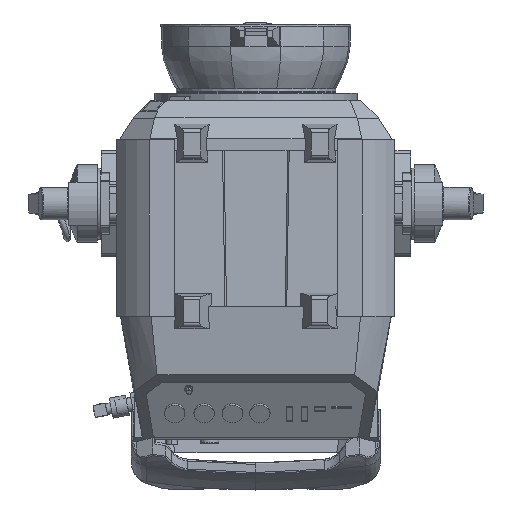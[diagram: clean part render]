
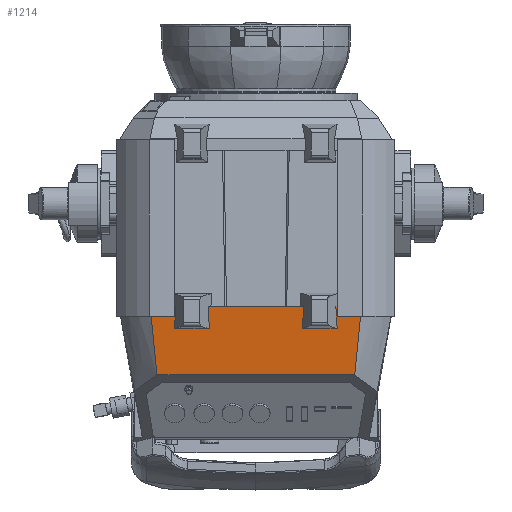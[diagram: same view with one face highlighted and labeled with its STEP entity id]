
A CAD part, front view. The second image highlights one B-rep face of the part: STEP entity #1214.
In plain terms, the highlighted planar face has unit normal (0, -0.994, -0.106).
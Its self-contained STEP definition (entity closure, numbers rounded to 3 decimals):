
#30 = EDGE_LOOP ( 'NONE', ( #70839, #61042, #8151, #36741, #24003, #10864, #64392, #46302, #18336, #2025, #67085, #72589, #4719, #9858, #51793, #20401 ) ) ;
#732 = DIRECTION ( 'NONE',  ( -0.06, -0.105, 0.993 ) ) ;
#1214 = ADVANCED_FACE ( 'NONE', ( #25054 ), #24426, .T. ) ;
#1248 = EDGE_CURVE ( 'NONE', #47120, #50830, #40397, .T. ) ;
#1889 = EDGE_CURVE ( 'NONE', #7879, #71553, #32567, .T. ) ;
#2025 = ORIENTED_EDGE ( 'NONE', *, *, #56969, .T. ) ;
#2206 = CARTESIAN_POINT ( 'NONE',  ( 0., -141.248, -155.66 ) ) ;
#3708 = VECTOR ( 'NONE', #58806, 1000. ) ;
#3718 = LINE ( 'NONE', #60987, #19016 ) ;
#4139 = VECTOR ( 'NONE', #34361, 1000. ) ;
#4719 = ORIENTED_EDGE ( 'NONE', *, *, #69235, .T. ) ;
#4763 = VECTOR ( 'NONE', #58291, 1000. ) ;
#5445 = EDGE_CURVE ( 'NONE', #60640, #62644, #21014, .T. ) ;
#6132 = VECTOR ( 'NONE', #56889, 1000. ) ;
#7019 = CARTESIAN_POINT ( 'NONE',  ( 97.483, -134.122, -222.771 ) ) ;
#7611 = LINE ( 'NONE', #51034, #4763 ) ;
#7759 = VECTOR ( 'NONE', #10198, 1000. ) ;
#7879 = VERTEX_POINT ( 'NONE', #76648 ) ;
#8120 = VECTOR ( 'NONE', #10197, 1000. ) ;
#8151 = ORIENTED_EDGE ( 'NONE', *, *, #36595, .F. ) ;
#9858 = ORIENTED_EDGE ( 'NONE', *, *, #41159, .T. ) ;
#9950 = CARTESIAN_POINT ( 'NONE',  ( 104.215, -140.239, -165.167 ) ) ;
#10197 = DIRECTION ( 'NONE',  ( 1., 0., 0. ) ) ;
#10198 = DIRECTION ( 'NONE',  ( 0.06, -0.105, 0.993 ) ) ;
#10864 = ORIENTED_EDGE ( 'NONE', *, *, #56367, .T. ) ;
#10879 = DIRECTION ( 'NONE',  ( 1., 0., 0. ) ) ;
#11738 = CARTESIAN_POINT ( 'NONE',  ( -80.501, -141.248, -155.66 ) ) ;
#11769 = LINE ( 'NONE', #39781, #4139 ) ;
#13649 = CARTESIAN_POINT ( 'NONE',  ( 104.214, -134.122, -222.771 ) ) ;
#13795 = VECTOR ( 'NONE', #75313, 1000. ) ;
#14183 = DIRECTION ( 'NONE',  ( -1., 0., 0. ) ) ;
#14230 = VERTEX_POINT ( 'NONE', #7019 ) ;
#15194 = VECTOR ( 'NONE', #14183, 1000. ) ;
#16321 = CARTESIAN_POINT ( 'NONE',  ( 78.859, -141.248, -155.66 ) ) ;
#18196 = VERTEX_POINT ( 'NONE', #30851 ) ;
#18336 = ORIENTED_EDGE ( 'NONE', *, *, #63730, .T. ) ;
#19016 = VECTOR ( 'NONE', #67100, 1000. ) ;
#19220 = CARTESIAN_POINT ( 'NONE',  ( 103.261, -140.238, -165.172 ) ) ;
#20401 = ORIENTED_EDGE ( 'NONE', *, *, #5445, .F. ) ;
#20672 = LINE ( 'NONE', #70561, #65700 ) ;
#21014 = LINE ( 'NONE', #40964, #28667 ) ;
#22249 = CARTESIAN_POINT ( 'NONE',  ( 47.141, -141.248, -155.66 ) ) ;
#22308 = DIRECTION ( 'NONE',  ( 0., -0.994, -0.106 ) ) ;
#23677 = VERTEX_POINT ( 'NONE', #11738 ) ;
#24003 = ORIENTED_EDGE ( 'NONE', *, *, #1248, .T. ) ;
#24046 = LINE ( 'NONE', #50194, #25985 ) ;
#24384 = CARTESIAN_POINT ( 'NONE',  ( -78.859, -141.248, -155.66 ) ) ;
#24426 = PLANE ( 'NONE',  #37274 ) ;
#25054 = FACE_OUTER_BOUND ( 'NONE', #30, .T. ) ;
#25985 = VECTOR ( 'NONE', #43759, 1000. ) ;
#26021 = EDGE_CURVE ( 'NONE', #62644, #14230, #3718, .T. ) ;
#27700 = CARTESIAN_POINT ( 'NONE',  ( 80.501, -141.248, -155.662 ) ) ;
#27944 = CARTESIAN_POINT ( 'NONE',  ( 0., -141.248, -155.66 ) ) ;
#28581 = EDGE_CURVE ( 'NONE', #18196, #60640, #52444, .T. ) ;
#28667 = VECTOR ( 'NONE', #10879, 1000. ) ;
#30273 = VERTEX_POINT ( 'NONE', #48403 ) ;
#30472 = LINE ( 'NONE', #71030, #3708 ) ;
#30851 = CARTESIAN_POINT ( 'NONE',  ( 80.501, -141.248, -155.66 ) ) ;
#32567 = LINE ( 'NONE', #37561, #15194 ) ;
#34361 = DIRECTION ( 'NONE',  ( 0.06, -0.105, 0.993 ) ) ;
#34892 = CARTESIAN_POINT ( 'NONE',  ( 47.35, -141.612, -152.234 ) ) ;
#35003 = VERTEX_POINT ( 'NONE', #75785 ) ;
#35439 = DIRECTION ( 'NONE',  ( -1., 0., 0. ) ) ;
#36231 = CARTESIAN_POINT ( 'NONE',  ( 104.214, -141.248, -155.66 ) ) ;
#36552 = VERTEX_POINT ( 'NONE', #54396 ) ;
#36595 = EDGE_CURVE ( 'NONE', #62230, #46489, #66671, .T. ) ;
#36637 = VERTEX_POINT ( 'NONE', #24384 ) ;
#36741 = ORIENTED_EDGE ( 'NONE', *, *, #59875, .T. ) ;
#37274 = AXIS2_PLACEMENT_3D ( 'NONE', #36231, #22308, #73184 ) ;
#37561 = CARTESIAN_POINT ( 'NONE',  ( 104.214, -138.93, -177.492 ) ) ;
#39087 = DIRECTION ( 'NONE',  ( -1., 0., 0. ) ) ;
#39781 = CARTESIAN_POINT ( 'NONE',  ( -78.189, -142.415, -144.67 ) ) ;
#40397 = LINE ( 'NONE', #34892, #7759 ) ;
#40964 = CARTESIAN_POINT ( 'NONE',  ( 104.214, -140.238, -165.172 ) ) ;
#41159 = EDGE_CURVE ( 'NONE', #35003, #14230, #60839, .T. ) ;
#41271 = CARTESIAN_POINT ( 'NONE',  ( 80.501, -140.238, -165.171 ) ) ;
#43759 = DIRECTION ( 'NONE',  ( 0.099, 0.105, -0.99 ) ) ;
#44967 = CARTESIAN_POINT ( 'NONE',  ( 0., -141.248, -155.66 ) ) ;
#46229 = VERTEX_POINT ( 'NONE', #48855 ) ;
#46302 = ORIENTED_EDGE ( 'NONE', *, *, #1889, .T. ) ;
#46489 = VERTEX_POINT ( 'NONE', #16321 ) ;
#47120 = VERTEX_POINT ( 'NONE', #76716 ) ;
#48403 = CARTESIAN_POINT ( 'NONE',  ( -103.261, -140.238, -165.172 ) ) ;
#48855 = CARTESIAN_POINT ( 'NONE',  ( -80.501, -140.238, -165.171 ) ) ;
#49299 = LINE ( 'NONE', #2206, #6132 ) ;
#50194 = CARTESIAN_POINT ( 'NONE',  ( -100.247, -137.048, -195.215 ) ) ;
#50830 = VERTEX_POINT ( 'NONE', #22249 ) ;
#51034 = CARTESIAN_POINT ( 'NONE',  ( -80.501, -141.25, -155.643 ) ) ;
#51307 = LINE ( 'NONE', #9950, #8120 ) ;
#51711 = CARTESIAN_POINT ( 'NONE',  ( -80.189, -138.93, -177.492 ) ) ;
#51793 = ORIENTED_EDGE ( 'NONE', *, *, #26021, .F. ) ;
#52156 = LINE ( 'NONE', #27944, #64567 ) ;
#52371 = DIRECTION ( 'NONE',  ( -0.06, -0.105, 0.993 ) ) ;
#52444 = LINE ( 'NONE', #27700, #55310 ) ;
#54396 = CARTESIAN_POINT ( 'NONE',  ( -47.141, -141.248, -155.66 ) ) ;
#55310 = VECTOR ( 'NONE', #69561, 1000. ) ;
#56367 = EDGE_CURVE ( 'NONE', #50830, #36552, #79150, .T. ) ;
#56382 = CARTESIAN_POINT ( 'NONE',  ( 80.158, -138.984, -176.982 ) ) ;
#56889 = DIRECTION ( 'NONE',  ( -1., 0., 0. ) ) ;
#56969 = EDGE_CURVE ( 'NONE', #36637, #23677, #49299, .T. ) ;
#58291 = DIRECTION ( 'NONE',  ( 0., -0.106, 0.994 ) ) ;
#58806 = DIRECTION ( 'NONE',  ( -1., 0., 0. ) ) ;
#59875 = EDGE_CURVE ( 'NONE', #62230, #47120, #30472, .T. ) ;
#60640 = VERTEX_POINT ( 'NONE', #41271 ) ;
#60839 = LINE ( 'NONE', #13649, #13795 ) ;
#60987 = CARTESIAN_POINT ( 'NONE',  ( 100.247, -137.048, -195.215 ) ) ;
#61042 = ORIENTED_EDGE ( 'NONE', *, *, #62081, .T. ) ;
#61386 = EDGE_CURVE ( 'NONE', #7879, #36552, #20672, .T. ) ;
#61601 = EDGE_CURVE ( 'NONE', #30273, #46229, #51307, .T. ) ;
#62081 = EDGE_CURVE ( 'NONE', #18196, #46489, #52156, .T. ) ;
#62230 = VERTEX_POINT ( 'NONE', #56382 ) ;
#62644 = VERTEX_POINT ( 'NONE', #19220 ) ;
#63730 = EDGE_CURVE ( 'NONE', #71553, #36637, #11769, .T. ) ;
#64392 = ORIENTED_EDGE ( 'NONE', *, *, #61386, .F. ) ;
#64567 = VECTOR ( 'NONE', #35439, 1000. ) ;
#65700 = VECTOR ( 'NONE', #52371, 1000. ) ;
#66671 = LINE ( 'NONE', #73527, #72421 ) ;
#67085 = ORIENTED_EDGE ( 'NONE', *, *, #76579, .F. ) ;
#67100 = DIRECTION ( 'NONE',  ( -0.099, 0.105, -0.99 ) ) ;
#69235 = EDGE_CURVE ( 'NONE', #30273, #35003, #24046, .T. ) ;
#69561 = DIRECTION ( 'NONE',  ( 0., 0.106, -0.994 ) ) ;
#70561 = CARTESIAN_POINT ( 'NONE',  ( -46.587, -140.283, -164.746 ) ) ;
#70839 = ORIENTED_EDGE ( 'NONE', *, *, #28581, .F. ) ;
#71030 = CARTESIAN_POINT ( 'NONE',  ( 104.214, -138.984, -176.982 ) ) ;
#71553 = VERTEX_POINT ( 'NONE', #51711 ) ;
#72421 = VECTOR ( 'NONE', #732, 1000. ) ;
#72480 = VECTOR ( 'NONE', #39087, 1000. ) ;
#72589 = ORIENTED_EDGE ( 'NONE', *, *, #61601, .F. ) ;
#73184 = DIRECTION ( 'NONE',  ( -1., 0., 0. ) ) ;
#73527 = CARTESIAN_POINT ( 'NONE',  ( 78.952, -141.086, -157.182 ) ) ;
#75313 = DIRECTION ( 'NONE',  ( 1., 0., 0. ) ) ;
#75785 = CARTESIAN_POINT ( 'NONE',  ( -97.483, -134.122, -222.771 ) ) ;
#76579 = EDGE_CURVE ( 'NONE', #46229, #23677, #7611, .T. ) ;
#76648 = CARTESIAN_POINT ( 'NONE',  ( -45.811, -138.93, -177.492 ) ) ;
#76716 = CARTESIAN_POINT ( 'NONE',  ( 45.842, -138.984, -176.982 ) ) ;
#79150 = LINE ( 'NONE', #44967, #72480 ) ;
